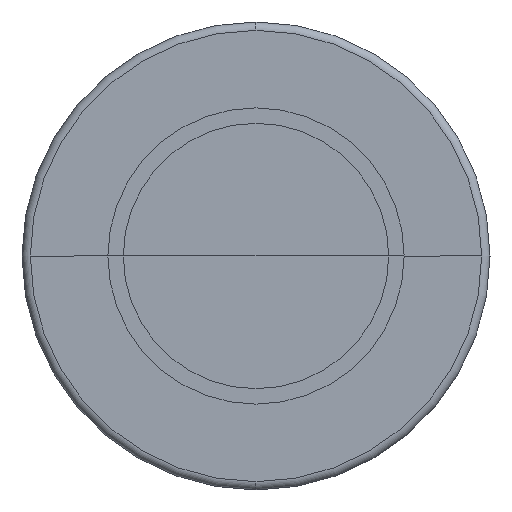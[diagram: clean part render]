
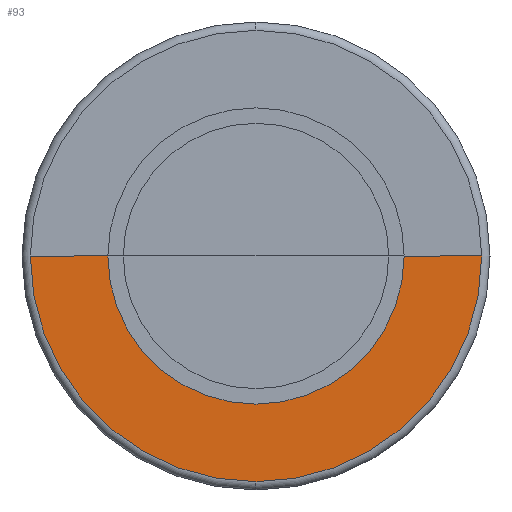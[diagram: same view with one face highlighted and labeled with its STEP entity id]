
A CAD part, left-side view. The second image highlights one B-rep face of the part: STEP entity #93.
In plain terms, the highlighted planar face has unit normal (-1, 0, 0).
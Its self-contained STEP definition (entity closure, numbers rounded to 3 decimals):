
#3 = AXIS2_PLACEMENT_3D ( 'NONE', #1030, #394, #872 ) ;
#19 = EDGE_CURVE ( 'NONE', #944, #749, #345, .T. ) ;
#46 = ORIENTED_EDGE ( 'NONE', *, *, #567, .T. ) ;
#58 = CARTESIAN_POINT ( 'NONE',  ( -46.2, 0., 0. ) ) ;
#62 = PLANE ( 'NONE',  #3 ) ;
#83 = ORIENTED_EDGE ( 'NONE', *, *, #19, .T. ) ;
#93 = ADVANCED_FACE ( 'NONE', ( #788 ), #62, .T. ) ;
#210 = AXIS2_PLACEMENT_3D ( 'NONE', #58, #390, #789 ) ;
#220 = CARTESIAN_POINT ( 'NONE',  ( -46.2, 17.725, 0. ) ) ;
#261 = CARTESIAN_POINT ( 'NONE',  ( -46.2, 0., 0. ) ) ;
#313 = DIRECTION ( 'NONE',  ( 0., 1., 0. ) ) ;
#318 = CARTESIAN_POINT ( 'NONE',  ( -46.2, -27., 0. ) ) ;
#328 = CIRCLE ( 'NONE', #600, 27. ) ;
#343 = VERTEX_POINT ( 'NONE', #633 ) ;
#345 = LINE ( 'NONE', #921, #521 ) ;
#346 = CARTESIAN_POINT ( 'NONE',  ( -46.2, 27., 0. ) ) ;
#360 = DIRECTION ( 'NONE',  ( 0., -1., 0. ) ) ;
#390 = DIRECTION ( 'NONE',  ( 1., 0., 0. ) ) ;
#394 = DIRECTION ( 'NONE',  ( -1., 0., 0. ) ) ;
#396 = CARTESIAN_POINT ( 'NONE',  ( -46.2, 0., -27. ) ) ;
#402 = CIRCLE ( 'NONE', #210, 17.725 ) ;
#408 = VERTEX_POINT ( 'NONE', #396 ) ;
#424 = EDGE_CURVE ( 'NONE', #1026, #343, #983, .T. ) ;
#470 = CIRCLE ( 'NONE', #595, 27. ) ;
#521 = VECTOR ( 'NONE', #525, 1000. ) ;
#525 = DIRECTION ( 'NONE',  ( 0., 1., 0. ) ) ;
#567 = EDGE_CURVE ( 'NONE', #408, #1026, #328, .T. ) ;
#586 = DIRECTION ( 'NONE',  ( -1., 0., 0. ) ) ;
#595 = AXIS2_PLACEMENT_3D ( 'NONE', #261, #586, #360 ) ;
#600 = AXIS2_PLACEMENT_3D ( 'NONE', #926, #662, #843 ) ;
#633 = CARTESIAN_POINT ( 'NONE',  ( -46.2, -17.725, 0. ) ) ;
#635 = VECTOR ( 'NONE', #313, 1000. ) ;
#662 = DIRECTION ( 'NONE',  ( -1., 0., 0. ) ) ;
#749 = VERTEX_POINT ( 'NONE', #346 ) ;
#778 = ORIENTED_EDGE ( 'NONE', *, *, #930, .T. ) ;
#788 = FACE_OUTER_BOUND ( 'NONE', #891, .T. ) ;
#789 = DIRECTION ( 'NONE',  ( 0., -1., 0. ) ) ;
#790 = CARTESIAN_POINT ( 'NONE',  ( -46.2, -27., 0. ) ) ;
#793 = ORIENTED_EDGE ( 'NONE', *, *, #817, .T. ) ;
#817 = EDGE_CURVE ( 'NONE', #749, #408, #470, .T. ) ;
#843 = DIRECTION ( 'NONE',  ( 0., -1., 0. ) ) ;
#872 = DIRECTION ( 'NONE',  ( 0., 1., 0. ) ) ;
#891 = EDGE_LOOP ( 'NONE', ( #83, #793, #46, #927, #778 ) ) ;
#921 = CARTESIAN_POINT ( 'NONE',  ( -46.2, 17.725, 0. ) ) ;
#926 = CARTESIAN_POINT ( 'NONE',  ( -46.2, 0., 0. ) ) ;
#927 = ORIENTED_EDGE ( 'NONE', *, *, #424, .T. ) ;
#930 = EDGE_CURVE ( 'NONE', #343, #944, #402, .T. ) ;
#944 = VERTEX_POINT ( 'NONE', #220 ) ;
#983 = LINE ( 'NONE', #318, #635 ) ;
#1026 = VERTEX_POINT ( 'NONE', #790 ) ;
#1030 = CARTESIAN_POINT ( 'NONE',  ( -46.2, 0., 0. ) ) ;
